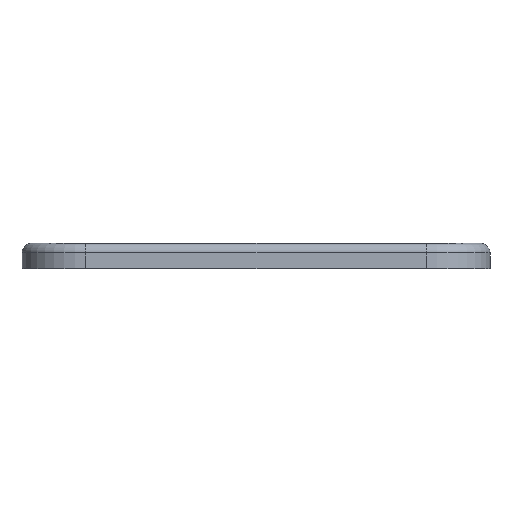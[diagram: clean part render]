
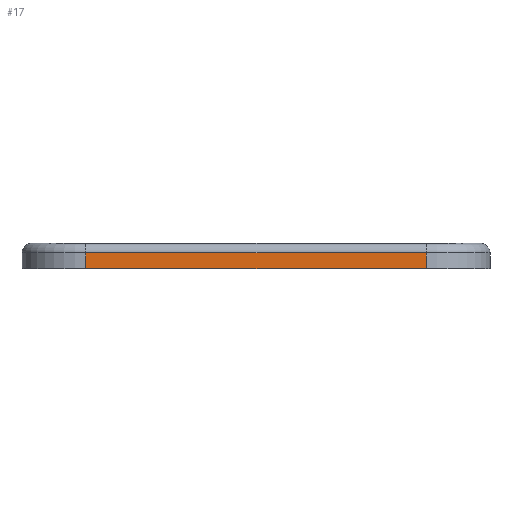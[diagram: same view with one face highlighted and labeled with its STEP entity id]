
A CAD part, left-side view. The second image highlights one B-rep face of the part: STEP entity #17.
In plain terms, the highlighted planar face has unit normal (-1, 0, 0).
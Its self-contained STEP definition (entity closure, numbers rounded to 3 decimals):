
#17 = ADVANCED_FACE('',(#18),#32,.F.);
#18 = FACE_BOUND('',#19,.F.);
#19 = EDGE_LOOP('',(#20,#55,#83,#111));
#20 = ORIENTED_EDGE('',*,*,#21,.F.);
#21 = EDGE_CURVE('',#22,#24,#26,.T.);
#22 = VERTEX_POINT('',#23);
#23 = CARTESIAN_POINT('',(-31.,-16.,0.));
#24 = VERTEX_POINT('',#25);
#25 = CARTESIAN_POINT('',(-31.,-16.,1.5));
#26 = SURFACE_CURVE('',#27,(#31,#43),.PCURVE_S1.);
#27 = LINE('',#28,#29);
#28 = CARTESIAN_POINT('',(-31.,-16.,0.));
#29 = VECTOR('',#30,1.);
#30 = DIRECTION('',(0.,0.,1.));
#31 = PCURVE('',#32,#37);
#32 = PLANE('',#33);
#33 = AXIS2_PLACEMENT_3D('',#34,#35,#36);
#34 = CARTESIAN_POINT('',(-31.,-22.,0.));
#35 = DIRECTION('',(1.,0.,0.));
#36 = DIRECTION('',(0.,0.,1.));
#37 = DEFINITIONAL_REPRESENTATION('',(#38),#42);
#38 = LINE('',#39,#40);
#39 = CARTESIAN_POINT('',(0.,-6.));
#40 = VECTOR('',#41,1.);
#41 = DIRECTION('',(1.,0.));
#42 = ( GEOMETRIC_REPRESENTATION_CONTEXT(2) 
PARAMETRIC_REPRESENTATION_CONTEXT() REPRESENTATION_CONTEXT('2D SPACE',''
  ) );
#43 = PCURVE('',#44,#49);
#44 = CYLINDRICAL_SURFACE('',#45,6.);
#45 = AXIS2_PLACEMENT_3D('',#46,#47,#48);
#46 = CARTESIAN_POINT('',(-25.,-16.,0.));
#47 = DIRECTION('',(0.,0.,1.));
#48 = DIRECTION('',(-1.,-0.,0.));
#49 = DEFINITIONAL_REPRESENTATION('',(#50),#54);
#50 = LINE('',#51,#52);
#51 = CARTESIAN_POINT('',(0.,0.));
#52 = VECTOR('',#53,1.);
#53 = DIRECTION('',(0.,1.));
#54 = ( GEOMETRIC_REPRESENTATION_CONTEXT(2) 
PARAMETRIC_REPRESENTATION_CONTEXT() REPRESENTATION_CONTEXT('2D SPACE',''
  ) );
#55 = ORIENTED_EDGE('',*,*,#56,.T.);
#56 = EDGE_CURVE('',#22,#57,#59,.T.);
#57 = VERTEX_POINT('',#58);
#58 = CARTESIAN_POINT('',(-31.,16.,0.));
#59 = SURFACE_CURVE('',#60,(#64,#71),.PCURVE_S1.);
#60 = LINE('',#61,#62);
#61 = CARTESIAN_POINT('',(-31.,-22.,0.));
#62 = VECTOR('',#63,1.);
#63 = DIRECTION('',(0.,1.,0.));
#64 = PCURVE('',#32,#65);
#65 = DEFINITIONAL_REPRESENTATION('',(#66),#70);
#66 = LINE('',#67,#68);
#67 = CARTESIAN_POINT('',(0.,0.));
#68 = VECTOR('',#69,1.);
#69 = DIRECTION('',(0.,-1.));
#70 = ( GEOMETRIC_REPRESENTATION_CONTEXT(2) 
PARAMETRIC_REPRESENTATION_CONTEXT() REPRESENTATION_CONTEXT('2D SPACE',''
  ) );
#71 = PCURVE('',#72,#77);
#72 = PLANE('',#73);
#73 = AXIS2_PLACEMENT_3D('',#74,#75,#76);
#74 = CARTESIAN_POINT('',(-31.,-22.,0.));
#75 = DIRECTION('',(0.,0.,1.));
#76 = DIRECTION('',(1.,0.,0.));
#77 = DEFINITIONAL_REPRESENTATION('',(#78),#82);
#78 = LINE('',#79,#80);
#79 = CARTESIAN_POINT('',(0.,0.));
#80 = VECTOR('',#81,1.);
#81 = DIRECTION('',(0.,1.));
#82 = ( GEOMETRIC_REPRESENTATION_CONTEXT(2) 
PARAMETRIC_REPRESENTATION_CONTEXT() REPRESENTATION_CONTEXT('2D SPACE',''
  ) );
#83 = ORIENTED_EDGE('',*,*,#84,.T.);
#84 = EDGE_CURVE('',#57,#85,#87,.T.);
#85 = VERTEX_POINT('',#86);
#86 = CARTESIAN_POINT('',(-31.,16.,1.5));
#87 = SURFACE_CURVE('',#88,(#92,#99),.PCURVE_S1.);
#88 = LINE('',#89,#90);
#89 = CARTESIAN_POINT('',(-31.,16.,0.));
#90 = VECTOR('',#91,1.);
#91 = DIRECTION('',(0.,0.,1.));
#92 = PCURVE('',#32,#93);
#93 = DEFINITIONAL_REPRESENTATION('',(#94),#98);
#94 = LINE('',#95,#96);
#95 = CARTESIAN_POINT('',(0.,-38.));
#96 = VECTOR('',#97,1.);
#97 = DIRECTION('',(1.,0.));
#98 = ( GEOMETRIC_REPRESENTATION_CONTEXT(2) 
PARAMETRIC_REPRESENTATION_CONTEXT() REPRESENTATION_CONTEXT('2D SPACE',''
  ) );
#99 = PCURVE('',#100,#105);
#100 = CYLINDRICAL_SURFACE('',#101,6.);
#101 = AXIS2_PLACEMENT_3D('',#102,#103,#104);
#102 = CARTESIAN_POINT('',(-25.,16.,0.));
#103 = DIRECTION('',(0.,0.,1.));
#104 = DIRECTION('',(-1.,-0.,0.));
#105 = DEFINITIONAL_REPRESENTATION('',(#106),#110);
#106 = LINE('',#107,#108);
#107 = CARTESIAN_POINT('',(-0.,0.));
#108 = VECTOR('',#109,1.);
#109 = DIRECTION('',(-0.,1.));
#110 = ( GEOMETRIC_REPRESENTATION_CONTEXT(2) 
PARAMETRIC_REPRESENTATION_CONTEXT() REPRESENTATION_CONTEXT('2D SPACE',''
  ) );
#111 = ORIENTED_EDGE('',*,*,#112,.F.);
#112 = EDGE_CURVE('',#24,#85,#113,.T.);
#113 = SURFACE_CURVE('',#114,(#118,#125),.PCURVE_S1.);
#114 = LINE('',#115,#116);
#115 = CARTESIAN_POINT('',(-31.,-16.,1.5));
#116 = VECTOR('',#117,1.);
#117 = DIRECTION('',(0.,1.,0.));
#118 = PCURVE('',#32,#119);
#119 = DEFINITIONAL_REPRESENTATION('',(#120),#124);
#120 = LINE('',#121,#122);
#121 = CARTESIAN_POINT('',(1.5,-6.));
#122 = VECTOR('',#123,1.);
#123 = DIRECTION('',(0.,-1.));
#124 = ( GEOMETRIC_REPRESENTATION_CONTEXT(2) 
PARAMETRIC_REPRESENTATION_CONTEXT() REPRESENTATION_CONTEXT('2D SPACE',''
  ) );
#125 = PCURVE('',#126,#131);
#126 = CYLINDRICAL_SURFACE('',#127,0.9);
#127 = AXIS2_PLACEMENT_3D('',#128,#129,#130);
#128 = CARTESIAN_POINT('',(-30.1,-16.,1.5));
#129 = DIRECTION('',(0.,1.,0.));
#130 = DIRECTION('',(-1.,0.,0.));
#131 = DEFINITIONAL_REPRESENTATION('',(#132),#136);
#132 = LINE('',#133,#134);
#133 = CARTESIAN_POINT('',(0.,0.));
#134 = VECTOR('',#135,1.);
#135 = DIRECTION('',(0.,1.));
#136 = ( GEOMETRIC_REPRESENTATION_CONTEXT(2) 
PARAMETRIC_REPRESENTATION_CONTEXT() REPRESENTATION_CONTEXT('2D SPACE',''
  ) );
